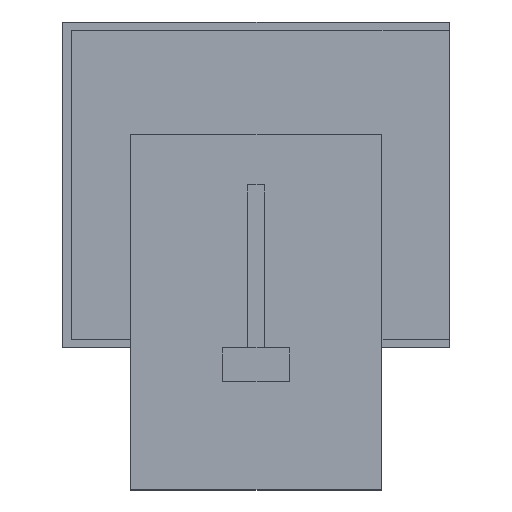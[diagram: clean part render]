
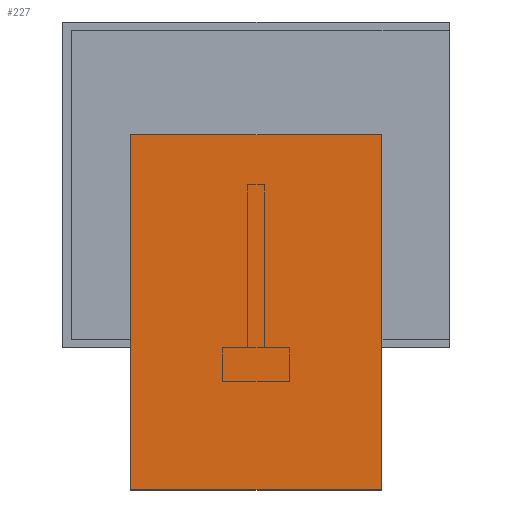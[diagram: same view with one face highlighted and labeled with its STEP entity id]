
A CAD part, left-side view. The second image highlights one B-rep face of the part: STEP entity #227.
In plain terms, the highlighted planar face has unit normal (-1, 0, 0).
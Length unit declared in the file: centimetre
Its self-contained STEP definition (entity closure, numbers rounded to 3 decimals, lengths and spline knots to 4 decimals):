
#227=ADVANCED_FACE('',(#319),#1457,.T.);
#319=FACE_OUTER_BOUND('',#413,.T.);
#413=EDGE_LOOP('',(#818,#819,#820,#821));
#818=ORIENTED_EDGE('',*,*,#1021,.F.);
#819=ORIENTED_EDGE('',*,*,#1023,.F.);
#820=ORIENTED_EDGE('',*,*,#1016,.T.);
#821=ORIENTED_EDGE('',*,*,#1024,.T.);
#1016=EDGE_CURVE('',#1360,#1361,#1220,.T.);
#1021=EDGE_CURVE('',#1363,#1365,#1225,.T.);
#1023=EDGE_CURVE('',#1360,#1363,#1227,.T.);
#1024=EDGE_CURVE('',#1361,#1365,#1228,.T.);
#1220=B_SPLINE_CURVE_WITH_KNOTS('',1,(#2284,#2285),.UNSPECIFIED.,.F.,.F.,
(2,2),(0.,42.5),.UNSPECIFIED.);
#1225=B_SPLINE_CURVE_WITH_KNOTS('',1,(#2294,#2295),.UNSPECIFIED.,.F.,.F.,
(2,2),(0.,42.5),.UNSPECIFIED.);
#1227=B_SPLINE_CURVE_WITH_KNOTS('',1,(#2298,#2299),.UNSPECIFIED.,.F.,.F.,
(2,2),(0.,30.),.UNSPECIFIED.);
#1228=B_SPLINE_CURVE_WITH_KNOTS('',1,(#2300,#2301),.UNSPECIFIED.,.F.,.F.,
(2,2),(0.,30.),.UNSPECIFIED.);
#1360=VERTEX_POINT('',#2274);
#1361=VERTEX_POINT('',#2275);
#1363=VERTEX_POINT('',#2277);
#1365=VERTEX_POINT('',#2279);
#1457=PLANE('',#1569);
#1569=AXIS2_PLACEMENT_3D('',#2271,#1664,$);
#1664=DIRECTION('',(-1.,0.,0.));
#2271=CARTESIAN_POINT('',(866.3612,137.9633,-12.3516));
#2274=CARTESIAN_POINT('',(866.3612,140.9645,-8.1004));
#2275=CARTESIAN_POINT('',(866.3612,140.9645,34.3996));
#2277=CARTESIAN_POINT('',(866.3612,170.9645,-8.1004));
#2279=CARTESIAN_POINT('',(866.3612,170.9645,34.3996));
#2284=CARTESIAN_POINT('',(866.3612,140.9645,-8.1004));
#2285=CARTESIAN_POINT('',(866.3612,140.9645,34.3996));
#2294=CARTESIAN_POINT('',(866.3612,170.9645,-8.1004));
#2295=CARTESIAN_POINT('',(866.3612,170.9645,34.3996));
#2298=CARTESIAN_POINT('',(866.3612,140.9645,-8.1004));
#2299=CARTESIAN_POINT('',(866.3612,170.9645,-8.1004));
#2300=CARTESIAN_POINT('',(866.3612,140.9645,34.3996));
#2301=CARTESIAN_POINT('',(866.3612,170.9645,34.3996));
